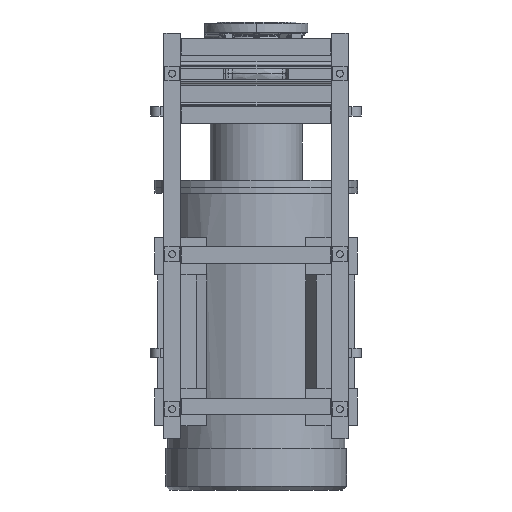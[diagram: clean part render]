
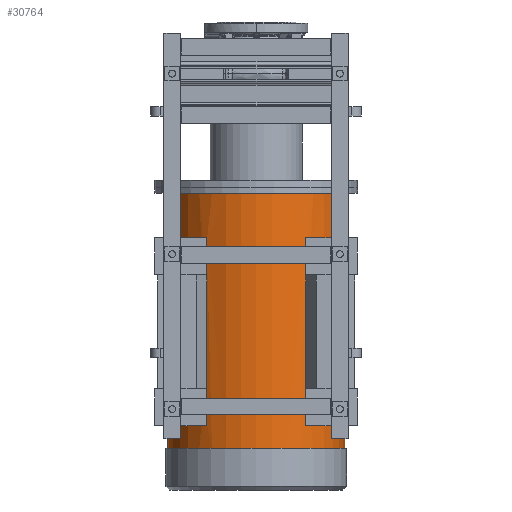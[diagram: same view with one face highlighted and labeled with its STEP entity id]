
A CAD part, front view. The second image highlights one B-rep face of the part: STEP entity #30764.
In plain terms, the highlighted cylindrical face has radius 240 mm (diameter 480 mm), a partial arc.
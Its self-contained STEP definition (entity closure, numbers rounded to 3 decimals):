
#442 = VERTEX_POINT ( 'NONE', #67965 ) ;
#461 = LINE ( 'NONE', #29315, #34202 ) ;
#2299 = DIRECTION ( 'NONE',  ( -1., 0., 0. ) ) ;
#3591 = CARTESIAN_POINT ( 'NONE',  ( -148.813, -188.294, -951.5 ) ) ;
#4652 = FACE_BOUND ( 'NONE', #77394, .T. ) ;
#5092 = EDGE_CURVE ( 'NONE', #63677, #75658, #461, .T. ) ;
#5324 = CARTESIAN_POINT ( 'NONE',  ( 134.196, -198.976, -456.5 ) ) ;
#5497 = ORIENTED_EDGE ( 'NONE', *, *, #37871, .F. ) ;
#6359 = ORIENTED_EDGE ( 'NONE', *, *, #26181, .T. ) ;
#6520 = CARTESIAN_POINT ( 'NONE',  ( 240., 0., -324.5 ) ) ;
#7599 = LINE ( 'NONE', #51144, #60086 ) ;
#8184 = VERTEX_POINT ( 'NONE', #5324 ) ;
#8813 = CARTESIAN_POINT ( 'NONE',  ( 0., 0., -951.5 ) ) ;
#9198 = DIRECTION ( 'NONE',  ( 0., 0., -1. ) ) ;
#10561 = EDGE_CURVE ( 'NONE', #30788, #26730, #44214, .T. ) ;
#10588 = CIRCLE ( 'NONE', #38014, 240. ) ;
#11886 = VECTOR ( 'NONE', #32185, 1000. ) ;
#11888 = EDGE_CURVE ( 'NONE', #63677, #30788, #31914, .T. ) ;
#12529 = ORIENTED_EDGE ( 'NONE', *, *, #5092, .F. ) ;
#13541 = CARTESIAN_POINT ( 'NONE',  ( -240., 0., -324.5 ) ) ;
#13669 = CARTESIAN_POINT ( 'NONE',  ( 134.196, -198.976, -1129.5 ) ) ;
#13813 = CARTESIAN_POINT ( 'NONE',  ( 0., 0., -1129.5 ) ) ;
#16378 = CARTESIAN_POINT ( 'NONE',  ( -134.196, -198.976, -456.5 ) ) ;
#16996 = DIRECTION ( 'NONE',  ( 0., 0., -1. ) ) ;
#18459 = EDGE_CURVE ( 'NONE', #442, #37595, #7599, .T. ) ;
#19182 = DIRECTION ( 'NONE',  ( 0., 0., -1. ) ) ;
#20645 = CARTESIAN_POINT ( 'NONE',  ( -148.813, -188.294, -1129.5 ) ) ;
#20706 = VECTOR ( 'NONE', #9198, 1000. ) ;
#21062 = EDGE_CURVE ( 'NONE', #36685, #41510, #32758, .T. ) ;
#21468 = ORIENTED_EDGE ( 'NONE', *, *, #37726, .T. ) ;
#21816 = AXIS2_PLACEMENT_3D ( 'NONE', #8813, #38993, #44243 ) ;
#22474 = FACE_OUTER_BOUND ( 'NONE', #43231, .T. ) ;
#23354 = CIRCLE ( 'NONE', #26790, 240. ) ;
#23624 = CARTESIAN_POINT ( 'NONE',  ( 148.813, -188.294, -951.5 ) ) ;
#24764 = EDGE_CURVE ( 'NONE', #36685, #8184, #73760, .T. ) ;
#25249 = DIRECTION ( 'NONE',  ( -1., 0., 0. ) ) ;
#26181 = EDGE_CURVE ( 'NONE', #66263, #41510, #49805, .T. ) ;
#26427 = CARTESIAN_POINT ( 'NONE',  ( 0., 0., -324.5 ) ) ;
#26730 = VERTEX_POINT ( 'NONE', #29004 ) ;
#26790 = AXIS2_PLACEMENT_3D ( 'NONE', #72159, #65299, #29404 ) ;
#27496 = ORIENTED_EDGE ( 'NONE', *, *, #21062, .F. ) ;
#27768 = VECTOR ( 'NONE', #74013, 1000. ) ;
#27830 = LINE ( 'NONE', #20645, #11886 ) ;
#29004 = CARTESIAN_POINT ( 'NONE',  ( -240., 0., -1016.5 ) ) ;
#29315 = CARTESIAN_POINT ( 'NONE',  ( 240., 0., -1129.5 ) ) ;
#29404 = DIRECTION ( 'NONE',  ( 1., 0., 0. ) ) ;
#29997 = DIRECTION ( 'NONE',  ( 0., 0., 1. ) ) ;
#30764 = ADVANCED_FACE ( 'NONE', ( #22474, #41234, #4652 ), #69370, .T. ) ;
#30788 = VERTEX_POINT ( 'NONE', #13541 ) ;
#31914 = CIRCLE ( 'NONE', #50065, 240. ) ;
#32167 = DIRECTION ( 'NONE',  ( 0., 0., -1. ) ) ;
#32185 = DIRECTION ( 'NONE',  ( 0., 0., -1. ) ) ;
#32487 = AXIS2_PLACEMENT_3D ( 'NONE', #48842, #19182, #25249 ) ;
#32758 = CIRCLE ( 'NONE', #21816, 240. ) ;
#33843 = EDGE_CURVE ( 'NONE', #62762, #55525, #27830, .T. ) ;
#33848 = CARTESIAN_POINT ( 'NONE',  ( 148.813, -188.294, -1129.5 ) ) ;
#34202 = VECTOR ( 'NONE', #16996, 1000. ) ;
#34488 = ORIENTED_EDGE ( 'NONE', *, *, #18459, .F. ) ;
#36035 = CARTESIAN_POINT ( 'NONE',  ( 0., 0., -456.5 ) ) ;
#36685 = VERTEX_POINT ( 'NONE', #48591 ) ;
#37595 = VERTEX_POINT ( 'NONE', #16378 ) ;
#37648 = EDGE_CURVE ( 'NONE', #8184, #66263, #66037, .T. ) ;
#37726 = EDGE_CURVE ( 'NONE', #442, #55525, #10588, .T. ) ;
#37871 = EDGE_CURVE ( 'NONE', #75658, #26730, #48161, .T. ) ;
#38014 = AXIS2_PLACEMENT_3D ( 'NONE', #66417, #42086, #71454 ) ;
#38993 = DIRECTION ( 'NONE',  ( 0., 0., 1. ) ) ;
#39524 = CARTESIAN_POINT ( 'NONE',  ( 240., 0., -1016.5 ) ) ;
#39610 = ORIENTED_EDGE ( 'NONE', *, *, #24764, .T. ) ;
#41234 = FACE_BOUND ( 'NONE', #56043, .T. ) ;
#41510 = VERTEX_POINT ( 'NONE', #23624 ) ;
#41904 = DIRECTION ( 'NONE',  ( 0., 0., -1. ) ) ;
#42086 = DIRECTION ( 'NONE',  ( 0., 0., -1. ) ) ;
#42323 = DIRECTION ( 'NONE',  ( -1., 0., 0. ) ) ;
#43067 = CARTESIAN_POINT ( 'NONE',  ( 148.813, -188.294, -456.5 ) ) ;
#43231 = EDGE_LOOP ( 'NONE', ( #12529, #56629, #68533, #5497 ) ) ;
#44214 = LINE ( 'NONE', #77548, #45178 ) ;
#44218 = EDGE_CURVE ( 'NONE', #37595, #62762, #23354, .T. ) ;
#44243 = DIRECTION ( 'NONE',  ( -1., 0., 0. ) ) ;
#45178 = VECTOR ( 'NONE', #41904, 1000. ) ;
#47166 = AXIS2_PLACEMENT_3D ( 'NONE', #13813, #49483, #61237 ) ;
#48161 = CIRCLE ( 'NONE', #32487, 240. ) ;
#48591 = CARTESIAN_POINT ( 'NONE',  ( 134.196, -198.976, -951.5 ) ) ;
#48842 = CARTESIAN_POINT ( 'NONE',  ( 0., 0., -1016.5 ) ) ;
#49483 = DIRECTION ( 'NONE',  ( 0., 0., -1. ) ) ;
#49805 = LINE ( 'NONE', #33848, #20706 ) ;
#50065 = AXIS2_PLACEMENT_3D ( 'NONE', #26427, #32167, #2299 ) ;
#51144 = CARTESIAN_POINT ( 'NONE',  ( -134.196, -198.976, -1129.5 ) ) ;
#52544 = AXIS2_PLACEMENT_3D ( 'NONE', #36035, #29997, #42323 ) ;
#52925 = CARTESIAN_POINT ( 'NONE',  ( -148.813, -188.294, -456.5 ) ) ;
#55525 = VERTEX_POINT ( 'NONE', #3591 ) ;
#56043 = EDGE_LOOP ( 'NONE', ( #27496, #39610, #69947, #6359 ) ) ;
#56178 = ORIENTED_EDGE ( 'NONE', *, *, #44218, .F. ) ;
#56629 = ORIENTED_EDGE ( 'NONE', *, *, #11888, .T. ) ;
#60086 = VECTOR ( 'NONE', #75043, 1000. ) ;
#61237 = DIRECTION ( 'NONE',  ( -1., 0., 0. ) ) ;
#62469 = ORIENTED_EDGE ( 'NONE', *, *, #33843, .F. ) ;
#62762 = VERTEX_POINT ( 'NONE', #52925 ) ;
#63677 = VERTEX_POINT ( 'NONE', #6520 ) ;
#65299 = DIRECTION ( 'NONE',  ( 0., 0., -1. ) ) ;
#66037 = CIRCLE ( 'NONE', #52544, 240. ) ;
#66263 = VERTEX_POINT ( 'NONE', #43067 ) ;
#66417 = CARTESIAN_POINT ( 'NONE',  ( 0., 0., -951.5 ) ) ;
#67965 = CARTESIAN_POINT ( 'NONE',  ( -134.196, -198.976, -951.5 ) ) ;
#68533 = ORIENTED_EDGE ( 'NONE', *, *, #10561, .T. ) ;
#69370 = CYLINDRICAL_SURFACE ( 'NONE', #47166, 240. ) ;
#69947 = ORIENTED_EDGE ( 'NONE', *, *, #37648, .T. ) ;
#71454 = DIRECTION ( 'NONE',  ( 1., 0., 0. ) ) ;
#72159 = CARTESIAN_POINT ( 'NONE',  ( 0., 0., -456.5 ) ) ;
#73760 = LINE ( 'NONE', #13669, #27768 ) ;
#74013 = DIRECTION ( 'NONE',  ( 0., 0., 1. ) ) ;
#75043 = DIRECTION ( 'NONE',  ( 0., 0., 1. ) ) ;
#75658 = VERTEX_POINT ( 'NONE', #39524 ) ;
#77394 = EDGE_LOOP ( 'NONE', ( #34488, #21468, #62469, #56178 ) ) ;
#77548 = CARTESIAN_POINT ( 'NONE',  ( -240., 0., -1129.5 ) ) ;
